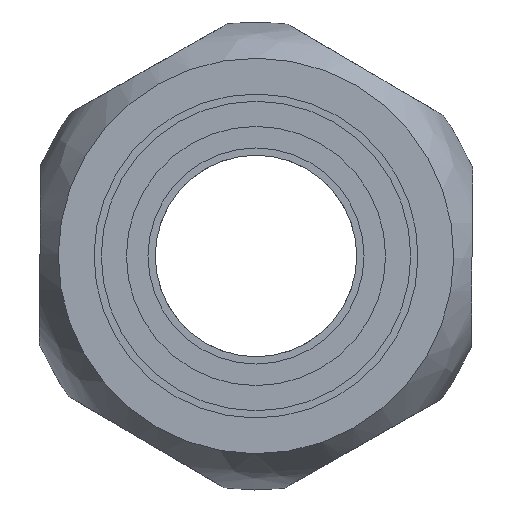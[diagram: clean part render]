
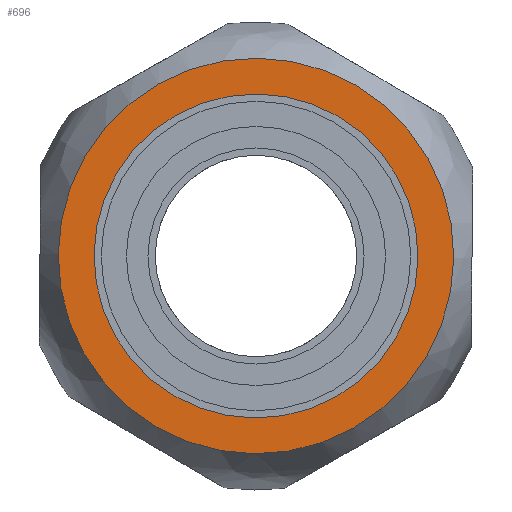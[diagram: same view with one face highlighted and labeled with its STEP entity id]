
A CAD part, left-side view. The second image highlights one B-rep face of the part: STEP entity #696.
In plain terms, the highlighted planar face has unit normal (-1, 0, 0).
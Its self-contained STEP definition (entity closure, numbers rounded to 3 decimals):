
#108=PLANE('',#774);
#144=FACE_BOUND('',#256,.T.);
#180=FACE_OUTER_BOUND('',#255,.T.);
#255=EDGE_LOOP('',(#547,#548));
#256=EDGE_LOOP('',(#549));
#313=CIRCLE('',#764,13.735);
#314=CIRCLE('',#765,13.735);
#318=CIRCLE('',#773,11.25);
#369=VERTEX_POINT('',#1510);
#370=VERTEX_POINT('',#1514);
#374=VERTEX_POINT('',#1527);
#433=EDGE_CURVE('',#369,#370,#313,.T.);
#434=EDGE_CURVE('',#370,#369,#314,.T.);
#438=EDGE_CURVE('',#374,#374,#318,.T.);
#547=ORIENTED_EDGE('',*,*,#434,.F.);
#548=ORIENTED_EDGE('',*,*,#433,.F.);
#549=ORIENTED_EDGE('',*,*,#438,.T.);
#696=ADVANCED_FACE('',(#180,#144),#108,.T.);
#764=AXIS2_PLACEMENT_3D('',#1515,#907,#908);
#765=AXIS2_PLACEMENT_3D('',#1516,#909,#910);
#773=AXIS2_PLACEMENT_3D('',#1528,#925,#926);
#774=AXIS2_PLACEMENT_3D('',#1529,#927,#928);
#907=DIRECTION('center_axis',(1.,0.,0.));
#908=DIRECTION('ref_axis',(0.,1.,0.));
#909=DIRECTION('center_axis',(1.,0.,0.));
#910=DIRECTION('ref_axis',(0.,1.,0.));
#925=DIRECTION('center_axis',(1.,0.,0.));
#926=DIRECTION('ref_axis',(0.,1.,0.));
#927=DIRECTION('center_axis',(-1.,0.,0.));
#928=DIRECTION('ref_axis',(0.,0.,1.));
#1510=CARTESIAN_POINT('',(0.,0.,13.735));
#1514=CARTESIAN_POINT('',(0.,13.735,0.));
#1515=CARTESIAN_POINT('Origin',(0.,0.,0.));
#1516=CARTESIAN_POINT('Origin',(0.,0.,0.));
#1527=CARTESIAN_POINT('',(0.,11.25,0.));
#1528=CARTESIAN_POINT('Origin',(0.,0.,0.));
#1529=CARTESIAN_POINT('Origin',(0.,12.493,0.));
